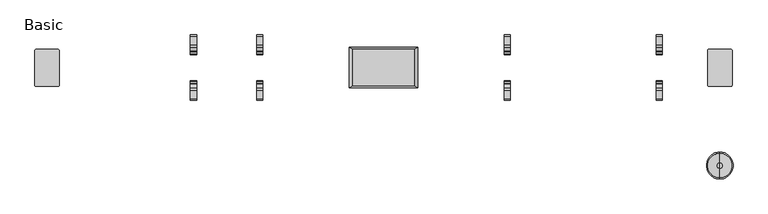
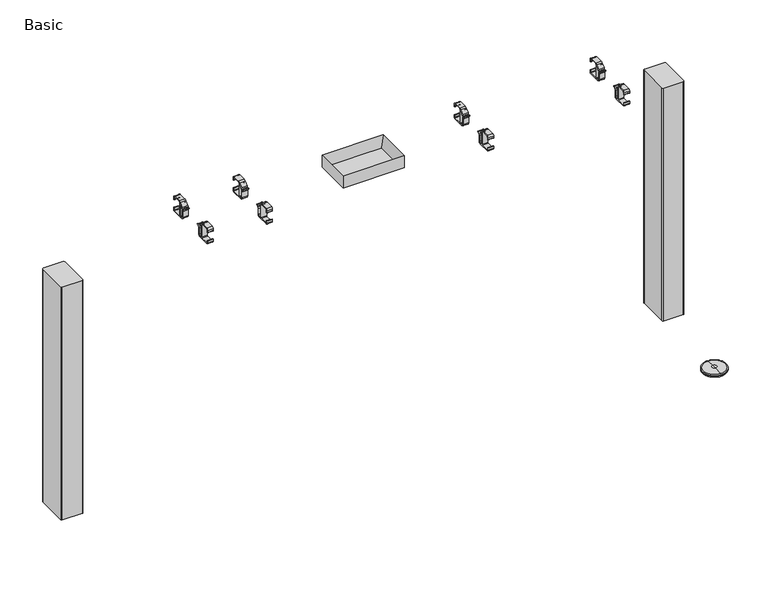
"""IFC4 building model written with IfcOpenShell, lengths in millimetres: furniture geometry, Steelcase Turnstone - Bivi - T Base : Basic."""

from ifc_helpers import new_model, si_unit, point, frame, frame_2d, origin, place, context, project, spatial, polyline, circle_curve, ellipse_curve, trimmed, segment, composite_curve, outline, extrude, faceted_brep, source, transform, mapped, element, save
from ifc_brep_helpers import plane_surface, cylinder_surface, revolved_surface, advanced_brep


def basic_2c4b2238(model_context):
    return source(origin(), model_context, "Body", "SolidModel", [
        extrude(outline(composite_curve([segment(trimmed(circle_curve(frame_2d((676.4941449, -139.8062192)), 2.9999955), [point((679.4941404, -139.8062192))], [point((676.4941476, -142.8062147))], False, "CARTESIAN"), True, "CONTINUOUS"), segment(polyline([(676.4941476, -142.8062147), (622.6123335, -142.8062147)]), True, "CONTINUOUS"), segment(trimmed(circle_curve(frame_2d((622.6123308, -139.8062267)), 2.9999881), [point((622.6123335, -142.8062147))], [point((619.6123427, -139.8062267))], False, "CARTESIAN"), True, "CONTINUOUS"), segment(polyline([(619.6123427, -139.8062267), (619.6123427, -55.8062406)]), True, "CONTINUOUS"), segment(trimmed(circle_curve(frame_2d((622.6123507, -55.8062406)), 3.0000079), [point((619.6123427, -55.8062406))], [point((622.6123441, -52.8062327))], False, "CARTESIAN"), True, "CONTINUOUS"), segment(polyline([(622.6123441, -52.8062327), (676.494164, -52.8062327)]), True, "CONTINUOUS"), segment(trimmed(circle_curve(frame_2d((676.494164, -55.8062091)), 2.9999764), [point((676.494164, -52.8062327))], [point((679.4941404, -55.8062091))], False, "CARTESIAN"), True, "CONTINUOUS"), segment(polyline([(679.4941404, -55.8062091), (679.4941404, -139.8062192)]), True, "CONTINUOUS")], self_intersect=False)), frame((0.0, 0.0, 32.9997018), z_axis=(0.0, 0.0, 1.0), x_axis=(1.0, 0.0, 0.0)), (0.0, 0.0, 1.0), 673.400907),
        extrude(outline(composite_curve([segment(polyline([(-1023.7931554, -140.227344), (-1023.7931508, -55.5044158)]), True, "CONTINUOUS"), segment(trimmed(circle_curve(frame_2d((-1021.0949196, -55.5044158)), 2.6982312), [point((-1023.7931508, -55.5044158))], [point((-1021.0949196, -52.8061846))], False, "CARTESIAN"), True, "CONTINUOUS"), segment(polyline([(-1021.0949196, -52.8061846), (-968.1662966, -52.8061846)]), True, "CONTINUOUS"), segment(trimmed(circle_curve(frame_2d((-968.1662966, -57.1799025)), 4.3737179), [point((-968.1662966, -52.8061846))], [point((-963.7925787, -57.1799025))], False, "CARTESIAN"), True, "CONTINUOUS"), segment(polyline([(-963.7925787, -57.1799025), (-963.7925787, -140.352824)]), True, "CONTINUOUS"), segment(trimmed(circle_curve(frame_2d((-966.3932707, -140.2011003)), 2.605114), [point((-963.7925787, -140.352824))], [point((-966.3932707, -142.8062143))], False, "CARTESIAN"), True, "CONTINUOUS"), segment(polyline([(-966.3932707, -142.8062143), (-1021.2142851, -142.8062143)]), True, "CONTINUOUS"), segment(trimmed(circle_curve(frame_2d((-1021.2142851, -140.227344)), 2.5788703), [point((-1021.2142851, -142.8062143))], [point((-1023.7931554, -140.227344))], False, "CARTESIAN"), True, "CONTINUOUS")], self_intersect=False)), frame((0.0, 0.0, 32.9997018), z_axis=(0.0, 0.0, 1.0), x_axis=(1.0, 0.0, 0.0)), (0.0, 0.0, 1.0), 673.400907),
        extrude(outline(composite_curve([segment(trimmed(circle_curve(frame_2d((-65.7391624, 742.1239361)), 6.2415612), [point((-59.4976013, 742.1239361))], [point((-64.5659326, 748.2542393))], True, "CARTESIAN"), True, "CONTINUOUS"), segment(trimmed(circle_curve(frame_2d((-64.3721846, 749.2666017)), 1.0307357), [point((-64.5659326, 748.2542393))], [point((-64.1869392, 750.2805545))], False, "CARTESIAN"), True, "CONTINUOUS"), segment(trimmed(circle_curve(frame_2d((-65.6771233, 742.1239361)), 8.2916266), [point((-64.1869392, 750.2805545))], [point((-57.3854967, 742.1239361))], False, "CARTESIAN"), True, "CONTINUOUS"), segment(polyline([(-57.3854967, 742.1239361), (-57.3854967, 725.3624107)]), True, "CONTINUOUS"), segment(trimmed(circle_curve(frame_2d((-53.4972048, 725.3624107)), 3.8882919), [point((-57.3854967, 725.3624107))], [point((-53.4414787, 721.4745182))], True, "CARTESIAN"), True, "CONTINUOUS"), segment(polyline([(-53.4414787, 721.4745182), (-48.5753711, 721.4745182)]), True, "CONTINUOUS"), segment(trimmed(circle_curve(frame_2d((-48.5753711, 722.558435)), 1.0839168), [point((-48.5753711, 721.4745182))], [point((-47.4914543, 722.558435))], True, "CARTESIAN"), True, "CONTINUOUS"), segment(polyline([(-47.4914543, 722.558435), (-47.4914543, 756.2135585)]), True, "CONTINUOUS"), segment(trimmed(circle_curve(frame_2d((-49.0315964, 756.2135585)), 1.5401421), [point((-47.4914543, 756.2135585))], [point((-50.0681586, 757.3526706))], True, "CARTESIAN"), True, "CONTINUOUS"), segment(polyline([(-50.0681586, 757.3526706), (-54.4475369, 753.3675508)]), True, "CONTINUOUS"), segment(trimmed(circle_curve(frame_2d((-53.8610141, 752.7230017)), 0.8714657), [point((-54.4475369, 753.3675508))], [point((-54.6447876, 752.342014))], True, "CARTESIAN"), True, "CONTINUOUS"), segment(trimmed(circle_curve(frame_2d((-56.5369304, 751.4222544)), 2.1038446), [point((-54.6447876, 752.342014))], [point((-57.8009025, 753.1040798))], False, "CARTESIAN"), True, "CONTINUOUS"), segment(polyline([(-57.8009025, 753.1040798), (-48.4315057, 761.5182067)]), True, "CONTINUOUS"), segment(trimmed(circle_curve(frame_2d((-43.0316889, 755.5053397)), 8.0816206), [point((-48.4315057, 761.5182067))], [point((-43.0316889, 763.5869603))], False, "CARTESIAN"), True, "CONTINUOUS"), segment(polyline([(-43.0316889, 763.5869603), (-21.684555, 763.5869603)]), True, "CONTINUOUS"), segment(trimmed(circle_curve(frame_2d((-22.1935929, 758.8624493)), 4.7518548), [point((-21.684555, 763.5869603))], [point((-17.4417381, 758.8624493))], False, "CARTESIAN"), True, "CONTINUOUS"), segment(polyline([(-17.4417381, 758.8624493), (-17.4417381, 753.5063472)]), True, "CONTINUOUS"), segment(trimmed(circle_curve(frame_2d((-18.5067894, 753.5063472)), 1.0650513), [point((-17.4417381, 753.5063472))], [point((-19.5718406, 753.5063472))], False, "CARTESIAN"), True, "CONTINUOUS"), segment(polyline([(-19.5718406, 753.5063472), (-19.5718406, 759.3038862)]), True, "CONTINUOUS"), segment(trimmed(circle_curve(frame_2d((-22.6679544, 759.3038862)), 3.0961138), [point((-19.5718406, 759.3038862))], [point((-22.6679544, 762.4))], True, "CARTESIAN"), True, "CONTINUOUS"), segment(polyline([(-22.6679544, 762.4), (-43.0035831, 762.4)]), True, "CONTINUOUS"), segment(trimmed(circle_curve(frame_2d((-43.0035831, 759.897389)), 2.502611), [point((-43.0035831, 762.4))], [point((-45.5061941, 759.897389))], True, "CARTESIAN"), True, "CONTINUOUS"), segment(polyline([(-45.5061941, 759.897389), (-45.5061941, 722.9613964)]), True, "CONTINUOUS"), segment(trimmed(circle_curve(frame_2d((-44.0445082, 722.9613964)), 1.4616859), [point((-45.5061941, 722.9613964))], [point((-44.0445082, 721.4997105))], True, "CARTESIAN"), True, "CONTINUOUS"), segment(polyline([(-44.0445082, 721.4997105), (-21.0231187, 721.4997105)]), True, "CONTINUOUS"), segment(trimmed(circle_curve(frame_2d((-21.0231187, 722.9509885)), 1.451278), [point((-21.0231187, 721.4997105))], [point((-19.5718406, 722.9509885))], True, "CARTESIAN"), True, "CONTINUOUS"), segment(polyline([(-19.5718406, 722.9509885), (-19.5718406, 729.2789837), (-17.4417381, 729.2789837), (-17.4417381, 723.3602118)]), True, "CONTINUOUS"), segment(trimmed(circle_curve(frame_2d((-21.439512, 723.3602118)), 3.997774), [point((-17.4417381, 723.3602118))], [point((-21.439512, 719.3624378))], False, "CARTESIAN"), True, "CONTINUOUS"), segment(polyline([(-21.439512, 719.3624378), (-53.4414787, 719.3624378)]), True, "CONTINUOUS"), segment(trimmed(circle_curve(frame_2d((-53.4414787, 725.4188231)), 6.0563853), [point((-53.4414787, 719.3624378))], [point((-59.4976013, 725.3624107))], False, "CARTESIAN"), True, "CONTINUOUS"), segment(polyline([(-59.4976013, 725.3624107), (-59.4976013, 742.1239361)]), True, "CONTINUOUS")], self_intersect=False)), frame((-644.2435707, 0.0, 0.0), z_axis=(1.0, 0.0, 0.0), x_axis=(0.0, 1.0, 0.0)), (0.0, 0.0, 1.0), 15.24),
        extrude(outline(composite_curve([segment(polyline([(-135.6005693, 742.1239361), (-135.6005693, 725.3624107)]), True, "CONTINUOUS"), segment(trimmed(circle_curve(frame_2d((-141.6566919, 725.4188231)), 6.0563853), [point((-135.6005693, 725.3624107))], [point((-141.6566919, 719.3624378))], False, "CARTESIAN"), True, "CONTINUOUS"), segment(polyline([(-141.6566919, 719.3624378), (-173.6586586, 719.3624378)]), True, "CONTINUOUS"), segment(trimmed(circle_curve(frame_2d((-173.6586586, 723.3602118)), 3.997774), [point((-173.6586586, 719.3624378))], [point((-177.6564325, 723.3602118))], False, "CARTESIAN"), True, "CONTINUOUS"), segment(polyline([(-177.6564325, 723.3602118), (-177.6564325, 729.2789837), (-175.52633, 729.2789837), (-175.52633, 722.9509885)]), True, "CONTINUOUS"), segment(trimmed(circle_curve(frame_2d((-174.0750519, 722.9509885)), 1.451278), [point((-175.52633, 722.9509885))], [point((-174.0750519, 721.4997105))], True, "CARTESIAN"), True, "CONTINUOUS"), segment(polyline([(-174.0750519, 721.4997105), (-151.0536624, 721.4997105)]), True, "CONTINUOUS"), segment(trimmed(circle_curve(frame_2d((-151.0536624, 722.9613964)), 1.4616859), [point((-151.0536624, 721.4997105))], [point((-149.5919765, 722.9613964))], True, "CARTESIAN"), True, "CONTINUOUS"), segment(polyline([(-149.5919765, 722.9613964), (-149.5919765, 759.897389)]), True, "CONTINUOUS"), segment(trimmed(circle_curve(frame_2d((-152.0945875, 759.897389)), 2.502611), [point((-149.5919765, 759.897389))], [point((-152.0945875, 762.4))], True, "CARTESIAN"), True, "CONTINUOUS"), segment(polyline([(-152.0945875, 762.4), (-172.4302162, 762.4)]), True, "CONTINUOUS"), segment(trimmed(circle_curve(frame_2d((-172.4302162, 759.3038862)), 3.0961138), [point((-172.4302162, 762.4))], [point((-175.52633, 759.3038862))], True, "CARTESIAN"), True, "CONTINUOUS"), segment(polyline([(-175.52633, 759.3038862), (-175.52633, 753.5063472)]), True, "CONTINUOUS"), segment(trimmed(circle_curve(frame_2d((-176.5913812, 753.5063472)), 1.0650513), [point((-175.52633, 753.5063472))], [point((-177.6564325, 753.5063472))], False, "CARTESIAN"), True, "CONTINUOUS"), segment(polyline([(-177.6564325, 753.5063472), (-177.6564325, 758.8624493)]), True, "CONTINUOUS"), segment(trimmed(circle_curve(frame_2d((-172.9045777, 758.8624493)), 4.7518548), [point((-177.6564325, 758.8624493))], [point((-173.4136156, 763.5869603))], False, "CARTESIAN"), True, "CONTINUOUS"), segment(polyline([(-173.4136156, 763.5869603), (-152.0664817, 763.5869603)]), True, "CONTINUOUS"), segment(trimmed(circle_curve(frame_2d((-152.0664817, 755.5053397)), 8.0816206), [point((-152.0664817, 763.5869603))], [point((-146.6666649, 761.5182067))], False, "CARTESIAN"), True, "CONTINUOUS"), segment(polyline([(-146.6666649, 761.5182067), (-137.2972681, 753.1040798)]), True, "CONTINUOUS"), segment(trimmed(circle_curve(frame_2d((-138.5612402, 751.4222544)), 2.1038446), [point((-137.2972681, 753.1040798))], [point((-140.453383, 752.342014))], False, "CARTESIAN"), True, "CONTINUOUS"), segment(trimmed(circle_curve(frame_2d((-141.2371565, 752.7230017)), 0.8714657), [point((-140.453383, 752.342014))], [point((-140.6506337, 753.3675508))], True, "CARTESIAN"), True, "CONTINUOUS"), segment(polyline([(-140.6506337, 753.3675508), (-145.030012, 757.3526706)]), True, "CONTINUOUS"), segment(trimmed(circle_curve(frame_2d((-146.0665742, 756.2135585)), 1.5401421), [point((-145.030012, 757.3526706))], [point((-147.6067163, 756.2135585))], True, "CARTESIAN"), True, "CONTINUOUS"), segment(polyline([(-147.6067163, 756.2135585), (-147.6067163, 722.558435)]), True, "CONTINUOUS"), segment(trimmed(circle_curve(frame_2d((-146.5227995, 722.558435)), 1.0839168), [point((-147.6067163, 722.558435))], [point((-146.5227995, 721.4745182))], True, "CARTESIAN"), True, "CONTINUOUS"), segment(polyline([(-146.5227995, 721.4745182), (-141.6566919, 721.4745182)]), True, "CONTINUOUS"), segment(trimmed(circle_curve(frame_2d((-141.6009658, 725.3624107)), 3.8882919), [point((-141.6566919, 721.4745182))], [point((-137.7126739, 725.3624107))], True, "CARTESIAN"), True, "CONTINUOUS"), segment(polyline([(-137.7126739, 725.3624107), (-137.7126739, 742.1239361)]), True, "CONTINUOUS"), segment(trimmed(circle_curve(frame_2d((-129.4210473, 742.1239361)), 8.2916266), [point((-137.7126739, 742.1239361))], [point((-130.9112314, 750.2805545))], False, "CARTESIAN"), True, "CONTINUOUS"), segment(trimmed(circle_curve(frame_2d((-130.725986, 749.2666017)), 1.0307357), [point((-130.9112314, 750.2805545))], [point((-130.532238, 748.2542393))], False, "CARTESIAN"), True, "CONTINUOUS"), segment(trimmed(circle_curve(frame_2d((-129.3590082, 742.1239361)), 6.2415612), [point((-130.532238, 748.2542393))], [point((-135.6005693, 742.1239361))], True, "CARTESIAN"), True, "CONTINUOUS")], self_intersect=False)), frame((-644.2435707, 0.0, 0.0), z_axis=(1.0, 0.0, 0.0), x_axis=(0.0, 1.0, 0.0)), (0.0, 0.0, 1.0), 15.24),
        extrude(outline(composite_curve([segment(trimmed(circle_curve(frame_2d((-65.7391624, 742.1239361)), 6.2415612), [point((-59.4976013, 742.1239361))], [point((-64.5659326, 748.2542393))], True, "CARTESIAN"), True, "CONTINUOUS"), segment(trimmed(circle_curve(frame_2d((-64.3721846, 749.2666017)), 1.0307357), [point((-64.5659326, 748.2542393))], [point((-64.1869392, 750.2805545))], False, "CARTESIAN"), True, "CONTINUOUS"), segment(trimmed(circle_curve(frame_2d((-65.6771233, 742.1239361)), 8.2916266), [point((-64.1869392, 750.2805545))], [point((-57.3854967, 742.1239361))], False, "CARTESIAN"), True, "CONTINUOUS"), segment(polyline([(-57.3854967, 742.1239361), (-57.3854967, 725.3624107)]), True, "CONTINUOUS"), segment(trimmed(circle_curve(frame_2d((-53.4972048, 725.3624107)), 3.8882919), [point((-57.3854967, 725.3624107))], [point((-53.4414787, 721.4745182))], True, "CARTESIAN"), True, "CONTINUOUS"), segment(polyline([(-53.4414787, 721.4745182), (-48.5753711, 721.4745182)]), True, "CONTINUOUS"), segment(trimmed(circle_curve(frame_2d((-48.5753711, 722.558435)), 1.0839168), [point((-48.5753711, 721.4745182))], [point((-47.4914543, 722.558435))], True, "CARTESIAN"), True, "CONTINUOUS"), segment(polyline([(-47.4914543, 722.558435), (-47.4914543, 756.2135585)]), True, "CONTINUOUS"), segment(trimmed(circle_curve(frame_2d((-49.0315964, 756.2135585)), 1.5401421), [point((-47.4914543, 756.2135585))], [point((-50.0681586, 757.3526706))], True, "CARTESIAN"), True, "CONTINUOUS"), segment(polyline([(-50.0681586, 757.3526706), (-54.4475369, 753.3675508)]), True, "CONTINUOUS"), segment(trimmed(circle_curve(frame_2d((-53.8610141, 752.7230017)), 0.8714657), [point((-54.4475369, 753.3675508))], [point((-54.6447876, 752.342014))], True, "CARTESIAN"), True, "CONTINUOUS"), segment(trimmed(circle_curve(frame_2d((-56.5369304, 751.4222544)), 2.1038446), [point((-54.6447876, 752.342014))], [point((-57.8009025, 753.1040798))], False, "CARTESIAN"), True, "CONTINUOUS"), segment(polyline([(-57.8009025, 753.1040798), (-48.4315057, 761.5182067)]), True, "CONTINUOUS"), segment(trimmed(circle_curve(frame_2d((-43.0316889, 755.5053397)), 8.0816206), [point((-48.4315057, 761.5182067))], [point((-43.0316889, 763.5869603))], False, "CARTESIAN"), True, "CONTINUOUS"), segment(polyline([(-43.0316889, 763.5869603), (-21.684555, 763.5869603)]), True, "CONTINUOUS"), segment(trimmed(circle_curve(frame_2d((-22.1935929, 758.8624493)), 4.7518548), [point((-21.684555, 763.5869603))], [point((-17.4417381, 758.8624493))], False, "CARTESIAN"), True, "CONTINUOUS"), segment(polyline([(-17.4417381, 758.8624493), (-17.4417381, 753.5063472)]), True, "CONTINUOUS"), segment(trimmed(circle_curve(frame_2d((-18.5067894, 753.5063472)), 1.0650513), [point((-17.4417381, 753.5063472))], [point((-19.5718406, 753.5063472))], False, "CARTESIAN"), True, "CONTINUOUS"), segment(polyline([(-19.5718406, 753.5063472), (-19.5718406, 759.3038862)]), True, "CONTINUOUS"), segment(trimmed(circle_curve(frame_2d((-22.6679544, 759.3038862)), 3.0961138), [point((-19.5718406, 759.3038862))], [point((-22.6679544, 762.4))], True, "CARTESIAN"), True, "CONTINUOUS"), segment(polyline([(-22.6679544, 762.4), (-43.0035831, 762.4)]), True, "CONTINUOUS"), segment(trimmed(circle_curve(frame_2d((-43.0035831, 759.897389)), 2.502611), [point((-43.0035831, 762.4))], [point((-45.5061941, 759.897389))], True, "CARTESIAN"), True, "CONTINUOUS"), segment(polyline([(-45.5061941, 759.897389), (-45.5061941, 722.9613964)]), True, "CONTINUOUS"), segment(trimmed(circle_curve(frame_2d((-44.0445082, 722.9613964)), 1.4616859), [point((-45.5061941, 722.9613964))], [point((-44.0445082, 721.4997105))], True, "CARTESIAN"), True, "CONTINUOUS"), segment(polyline([(-44.0445082, 721.4997105), (-21.0231187, 721.4997105)]), True, "CONTINUOUS"), segment(trimmed(circle_curve(frame_2d((-21.0231187, 722.9509885)), 1.451278), [point((-21.0231187, 721.4997105))], [point((-19.5718406, 722.9509885))], True, "CARTESIAN"), True, "CONTINUOUS"), segment(polyline([(-19.5718406, 722.9509885), (-19.5718406, 729.2789837), (-17.4417381, 729.2789837), (-17.4417381, 723.3602118)]), True, "CONTINUOUS"), segment(trimmed(circle_curve(frame_2d((-21.439512, 723.3602118)), 3.997774), [point((-17.4417381, 723.3602118))], [point((-21.439512, 719.3624378))], False, "CARTESIAN"), True, "CONTINUOUS"), segment(polyline([(-21.439512, 719.3624378), (-53.4414787, 719.3624378)]), True, "CONTINUOUS"), segment(trimmed(circle_curve(frame_2d((-53.4414787, 725.4188231)), 6.0563853), [point((-53.4414787, 719.3624378))], [point((-59.4976013, 725.3624107))], False, "CARTESIAN"), True, "CONTINUOUS"), segment(polyline([(-59.4976013, 725.3624107), (-59.4976013, 742.1239361)]), True, "CONTINUOUS")], self_intersect=False)), frame((-481.9950023, 0.0, 0.0), z_axis=(1.0, 0.0, 0.0), x_axis=(0.0, 1.0, 0.0)), (0.0, 0.0, 1.0), 15.24),
        extrude(outline(composite_curve([segment(polyline([(-135.6005693, 742.1239361), (-135.6005693, 725.3624107)]), True, "CONTINUOUS"), segment(trimmed(circle_curve(frame_2d((-141.6566919, 725.4188231)), 6.0563853), [point((-135.6005693, 725.3624107))], [point((-141.6566919, 719.3624378))], False, "CARTESIAN"), True, "CONTINUOUS"), segment(polyline([(-141.6566919, 719.3624378), (-173.6586586, 719.3624378)]), True, "CONTINUOUS"), segment(trimmed(circle_curve(frame_2d((-173.6586586, 723.3602118)), 3.997774), [point((-173.6586586, 719.3624378))], [point((-177.6564325, 723.3602118))], False, "CARTESIAN"), True, "CONTINUOUS"), segment(polyline([(-177.6564325, 723.3602118), (-177.6564325, 729.2789837), (-175.52633, 729.2789837), (-175.52633, 722.9509885)]), True, "CONTINUOUS"), segment(trimmed(circle_curve(frame_2d((-174.0750519, 722.9509885)), 1.451278), [point((-175.52633, 722.9509885))], [point((-174.0750519, 721.4997105))], True, "CARTESIAN"), True, "CONTINUOUS"), segment(polyline([(-174.0750519, 721.4997105), (-151.0536624, 721.4997105)]), True, "CONTINUOUS"), segment(trimmed(circle_curve(frame_2d((-151.0536624, 722.9613964)), 1.4616859), [point((-151.0536624, 721.4997105))], [point((-149.5919765, 722.9613964))], True, "CARTESIAN"), True, "CONTINUOUS"), segment(polyline([(-149.5919765, 722.9613964), (-149.5919765, 759.897389)]), True, "CONTINUOUS"), segment(trimmed(circle_curve(frame_2d((-152.0945875, 759.897389)), 2.502611), [point((-149.5919765, 759.897389))], [point((-152.0945875, 762.4))], True, "CARTESIAN"), True, "CONTINUOUS"), segment(polyline([(-152.0945875, 762.4), (-172.4302162, 762.4)]), True, "CONTINUOUS"), segment(trimmed(circle_curve(frame_2d((-172.4302162, 759.3038862)), 3.0961138), [point((-172.4302162, 762.4))], [point((-175.52633, 759.3038862))], True, "CARTESIAN"), True, "CONTINUOUS"), segment(polyline([(-175.52633, 759.3038862), (-175.52633, 753.5063472)]), True, "CONTINUOUS"), segment(trimmed(circle_curve(frame_2d((-176.5913812, 753.5063472)), 1.0650513), [point((-175.52633, 753.5063472))], [point((-177.6564325, 753.5063472))], False, "CARTESIAN"), True, "CONTINUOUS"), segment(polyline([(-177.6564325, 753.5063472), (-177.6564325, 758.8624493)]), True, "CONTINUOUS"), segment(trimmed(circle_curve(frame_2d((-172.9045777, 758.8624493)), 4.7518548), [point((-177.6564325, 758.8624493))], [point((-173.4136156, 763.5869603))], False, "CARTESIAN"), True, "CONTINUOUS"), segment(polyline([(-173.4136156, 763.5869603), (-152.0664817, 763.5869603)]), True, "CONTINUOUS"), segment(trimmed(circle_curve(frame_2d((-152.0664817, 755.5053397)), 8.0816206), [point((-152.0664817, 763.5869603))], [point((-146.6666649, 761.5182067))], False, "CARTESIAN"), True, "CONTINUOUS"), segment(polyline([(-146.6666649, 761.5182067), (-137.2972681, 753.1040798)]), True, "CONTINUOUS"), segment(trimmed(circle_curve(frame_2d((-138.5612402, 751.4222544)), 2.1038446), [point((-137.2972681, 753.1040798))], [point((-140.453383, 752.342014))], False, "CARTESIAN"), True, "CONTINUOUS"), segment(trimmed(circle_curve(frame_2d((-141.2371565, 752.7230017)), 0.8714657), [point((-140.453383, 752.342014))], [point((-140.6506337, 753.3675508))], True, "CARTESIAN"), True, "CONTINUOUS"), segment(polyline([(-140.6506337, 753.3675508), (-145.030012, 757.3526706)]), True, "CONTINUOUS"), segment(trimmed(circle_curve(frame_2d((-146.0665742, 756.2135585)), 1.5401421), [point((-145.030012, 757.3526706))], [point((-147.6067163, 756.2135585))], True, "CARTESIAN"), True, "CONTINUOUS"), segment(polyline([(-147.6067163, 756.2135585), (-147.6067163, 722.558435)]), True, "CONTINUOUS"), segment(trimmed(circle_curve(frame_2d((-146.5227995, 722.558435)), 1.0839168), [point((-147.6067163, 722.558435))], [point((-146.5227995, 721.4745182))], True, "CARTESIAN"), True, "CONTINUOUS"), segment(polyline([(-146.5227995, 721.4745182), (-141.6566919, 721.4745182)]), True, "CONTINUOUS"), segment(trimmed(circle_curve(frame_2d((-141.6009658, 725.3624107)), 3.8882919), [point((-141.6566919, 721.4745182))], [point((-137.7126739, 725.3624107))], True, "CARTESIAN"), True, "CONTINUOUS"), segment(polyline([(-137.7126739, 725.3624107), (-137.7126739, 742.1239361)]), True, "CONTINUOUS"), segment(trimmed(circle_curve(frame_2d((-129.4210473, 742.1239361)), 8.2916266), [point((-137.7126739, 742.1239361))], [point((-130.9112314, 750.2805545))], False, "CARTESIAN"), True, "CONTINUOUS"), segment(trimmed(circle_curve(frame_2d((-130.725986, 749.2666017)), 1.0307357), [point((-130.9112314, 750.2805545))], [point((-130.532238, 748.2542393))], False, "CARTESIAN"), True, "CONTINUOUS"), segment(trimmed(circle_curve(frame_2d((-129.3590082, 742.1239361)), 6.2415612), [point((-130.532238, 748.2542393))], [point((-135.6005693, 742.1239361))], True, "CARTESIAN"), True, "CONTINUOUS")], self_intersect=False)), frame((-481.9950023, 0.0, 0.0), z_axis=(1.0, 0.0, 0.0), x_axis=(0.0, 1.0, 0.0)), (0.0, 0.0, 1.0), 15.24),
        extrude(outline(composite_curve([segment(trimmed(circle_curve(frame_2d((-65.7391624, 742.1239361)), 6.2415612), [point((-59.4976013, 742.1239361))], [point((-64.5659326, 748.2542393))], True, "CARTESIAN"), True, "CONTINUOUS"), segment(trimmed(circle_curve(frame_2d((-64.3721846, 749.2666017)), 1.0307357), [point((-64.5659326, 748.2542393))], [point((-64.1869392, 750.2805545))], False, "CARTESIAN"), True, "CONTINUOUS"), segment(trimmed(circle_curve(frame_2d((-65.6771233, 742.1239361)), 8.2916266), [point((-64.1869392, 750.2805545))], [point((-57.3854967, 742.1239361))], False, "CARTESIAN"), True, "CONTINUOUS"), segment(polyline([(-57.3854967, 742.1239361), (-57.3854967, 725.3624107)]), True, "CONTINUOUS"), segment(trimmed(circle_curve(frame_2d((-53.4972048, 725.3624107)), 3.8882919), [point((-57.3854967, 725.3624107))], [point((-53.4414787, 721.4745182))], True, "CARTESIAN"), True, "CONTINUOUS"), segment(polyline([(-53.4414787, 721.4745182), (-48.5753711, 721.4745182)]), True, "CONTINUOUS"), segment(trimmed(circle_curve(frame_2d((-48.5753711, 722.558435)), 1.0839168), [point((-48.5753711, 721.4745182))], [point((-47.4914543, 722.558435))], True, "CARTESIAN"), True, "CONTINUOUS"), segment(polyline([(-47.4914543, 722.558435), (-47.4914543, 756.2135585)]), True, "CONTINUOUS"), segment(trimmed(circle_curve(frame_2d((-49.0315964, 756.2135585)), 1.5401421), [point((-47.4914543, 756.2135585))], [point((-50.0681586, 757.3526706))], True, "CARTESIAN"), True, "CONTINUOUS"), segment(polyline([(-50.0681586, 757.3526706), (-54.4475369, 753.3675508)]), True, "CONTINUOUS"), segment(trimmed(circle_curve(frame_2d((-53.8610141, 752.7230017)), 0.8714657), [point((-54.4475369, 753.3675508))], [point((-54.6447876, 752.342014))], True, "CARTESIAN"), True, "CONTINUOUS"), segment(trimmed(circle_curve(frame_2d((-56.5369304, 751.4222544)), 2.1038446), [point((-54.6447876, 752.342014))], [point((-57.8009025, 753.1040798))], False, "CARTESIAN"), True, "CONTINUOUS"), segment(polyline([(-57.8009025, 753.1040798), (-48.4315057, 761.5182067)]), True, "CONTINUOUS"), segment(trimmed(circle_curve(frame_2d((-43.0316889, 755.5053397)), 8.0816206), [point((-48.4315057, 761.5182067))], [point((-43.0316889, 763.5869603))], False, "CARTESIAN"), True, "CONTINUOUS"), segment(polyline([(-43.0316889, 763.5869603), (-21.684555, 763.5869603)]), True, "CONTINUOUS"), segment(trimmed(circle_curve(frame_2d((-22.1935929, 758.8624493)), 4.7518548), [point((-21.684555, 763.5869603))], [point((-17.4417381, 758.8624493))], False, "CARTESIAN"), True, "CONTINUOUS"), segment(polyline([(-17.4417381, 758.8624493), (-17.4417381, 753.5063472)]), True, "CONTINUOUS"), segment(trimmed(circle_curve(frame_2d((-18.5067894, 753.5063472)), 1.0650513), [point((-17.4417381, 753.5063472))], [point((-19.5718406, 753.5063472))], False, "CARTESIAN"), True, "CONTINUOUS"), segment(polyline([(-19.5718406, 753.5063472), (-19.5718406, 759.3038862)]), True, "CONTINUOUS"), segment(trimmed(circle_curve(frame_2d((-22.6679544, 759.3038862)), 3.0961138), [point((-19.5718406, 759.3038862))], [point((-22.6679544, 762.4))], True, "CARTESIAN"), True, "CONTINUOUS"), segment(polyline([(-22.6679544, 762.4), (-43.0035831, 762.4)]), True, "CONTINUOUS"), segment(trimmed(circle_curve(frame_2d((-43.0035831, 759.897389)), 2.502611), [point((-43.0035831, 762.4))], [point((-45.5061941, 759.897389))], True, "CARTESIAN"), True, "CONTINUOUS"), segment(polyline([(-45.5061941, 759.897389), (-45.5061941, 722.9613964)]), True, "CONTINUOUS"), segment(trimmed(circle_curve(frame_2d((-44.0445082, 722.9613964)), 1.4616859), [point((-45.5061941, 722.9613964))], [point((-44.0445082, 721.4997105))], True, "CARTESIAN"), True, "CONTINUOUS"), segment(polyline([(-44.0445082, 721.4997105), (-21.0231187, 721.4997105)]), True, "CONTINUOUS"), segment(trimmed(circle_curve(frame_2d((-21.0231187, 722.9509885)), 1.451278), [point((-21.0231187, 721.4997105))], [point((-19.5718406, 722.9509885))], True, "CARTESIAN"), True, "CONTINUOUS"), segment(polyline([(-19.5718406, 722.9509885), (-19.5718406, 729.2789837), (-17.4417381, 729.2789837), (-17.4417381, 723.3602118)]), True, "CONTINUOUS"), segment(trimmed(circle_curve(frame_2d((-21.439512, 723.3602118)), 3.997774), [point((-17.4417381, 723.3602118))], [point((-21.439512, 719.3624378))], False, "CARTESIAN"), True, "CONTINUOUS"), segment(polyline([(-21.439512, 719.3624378), (-53.4414787, 719.3624378)]), True, "CONTINUOUS"), segment(trimmed(circle_curve(frame_2d((-53.4414787, 725.4188231)), 6.0563853), [point((-53.4414787, 719.3624378))], [point((-59.4976013, 725.3624107))], False, "CARTESIAN"), True, "CONTINUOUS"), segment(polyline([(-59.4976013, 725.3624107), (-59.4976013, 742.1239361)]), True, "CONTINUOUS")], self_intersect=False)), frame((494.1131648, 0.0, 0.0), z_axis=(1.0, 0.0, 0.0), x_axis=(0.0, 1.0, 0.0)), (0.0, 0.0, 1.0), 15.24),
        extrude(outline(composite_curve([segment(polyline([(-135.6005693, 742.1239361), (-135.6005693, 725.3624107)]), True, "CONTINUOUS"), segment(trimmed(circle_curve(frame_2d((-141.6566919, 725.4188231)), 6.0563853), [point((-135.6005693, 725.3624107))], [point((-141.6566919, 719.3624378))], False, "CARTESIAN"), True, "CONTINUOUS"), segment(polyline([(-141.6566919, 719.3624378), (-173.6586586, 719.3624378)]), True, "CONTINUOUS"), segment(trimmed(circle_curve(frame_2d((-173.6586586, 723.3602118)), 3.997774), [point((-173.6586586, 719.3624378))], [point((-177.6564325, 723.3602118))], False, "CARTESIAN"), True, "CONTINUOUS"), segment(polyline([(-177.6564325, 723.3602118), (-177.6564325, 729.2789837), (-175.52633, 729.2789837), (-175.52633, 722.9509885)]), True, "CONTINUOUS"), segment(trimmed(circle_curve(frame_2d((-174.0750519, 722.9509885)), 1.451278), [point((-175.52633, 722.9509885))], [point((-174.0750519, 721.4997105))], True, "CARTESIAN"), True, "CONTINUOUS"), segment(polyline([(-174.0750519, 721.4997105), (-151.0536624, 721.4997105)]), True, "CONTINUOUS"), segment(trimmed(circle_curve(frame_2d((-151.0536624, 722.9613964)), 1.4616859), [point((-151.0536624, 721.4997105))], [point((-149.5919765, 722.9613964))], True, "CARTESIAN"), True, "CONTINUOUS"), segment(polyline([(-149.5919765, 722.9613964), (-149.5919765, 759.897389)]), True, "CONTINUOUS"), segment(trimmed(circle_curve(frame_2d((-152.0945875, 759.897389)), 2.502611), [point((-149.5919765, 759.897389))], [point((-152.0945875, 762.4))], True, "CARTESIAN"), True, "CONTINUOUS"), segment(polyline([(-152.0945875, 762.4), (-172.4302162, 762.4)]), True, "CONTINUOUS"), segment(trimmed(circle_curve(frame_2d((-172.4302162, 759.3038862)), 3.0961138), [point((-172.4302162, 762.4))], [point((-175.52633, 759.3038862))], True, "CARTESIAN"), True, "CONTINUOUS"), segment(polyline([(-175.52633, 759.3038862), (-175.52633, 753.5063472)]), True, "CONTINUOUS"), segment(trimmed(circle_curve(frame_2d((-176.5913812, 753.5063472)), 1.0650513), [point((-175.52633, 753.5063472))], [point((-177.6564325, 753.5063472))], False, "CARTESIAN"), True, "CONTINUOUS"), segment(polyline([(-177.6564325, 753.5063472), (-177.6564325, 758.8624493)]), True, "CONTINUOUS"), segment(trimmed(circle_curve(frame_2d((-172.9045777, 758.8624493)), 4.7518548), [point((-177.6564325, 758.8624493))], [point((-173.4136156, 763.5869603))], False, "CARTESIAN"), True, "CONTINUOUS"), segment(polyline([(-173.4136156, 763.5869603), (-152.0664817, 763.5869603)]), True, "CONTINUOUS"), segment(trimmed(circle_curve(frame_2d((-152.0664817, 755.5053397)), 8.0816206), [point((-152.0664817, 763.5869603))], [point((-146.6666649, 761.5182067))], False, "CARTESIAN"), True, "CONTINUOUS"), segment(polyline([(-146.6666649, 761.5182067), (-137.2972681, 753.1040798)]), True, "CONTINUOUS"), segment(trimmed(circle_curve(frame_2d((-138.5612402, 751.4222544)), 2.1038446), [point((-137.2972681, 753.1040798))], [point((-140.453383, 752.342014))], False, "CARTESIAN"), True, "CONTINUOUS"), segment(trimmed(circle_curve(frame_2d((-141.2371565, 752.7230017)), 0.8714657), [point((-140.453383, 752.342014))], [point((-140.6506337, 753.3675508))], True, "CARTESIAN"), True, "CONTINUOUS"), segment(polyline([(-140.6506337, 753.3675508), (-145.030012, 757.3526706)]), True, "CONTINUOUS"), segment(trimmed(circle_curve(frame_2d((-146.0665742, 756.2135585)), 1.5401421), [point((-145.030012, 757.3526706))], [point((-147.6067163, 756.2135585))], True, "CARTESIAN"), True, "CONTINUOUS"), segment(polyline([(-147.6067163, 756.2135585), (-147.6067163, 722.558435)]), True, "CONTINUOUS"), segment(trimmed(circle_curve(frame_2d((-146.5227995, 722.558435)), 1.0839168), [point((-147.6067163, 722.558435))], [point((-146.5227995, 721.4745182))], True, "CARTESIAN"), True, "CONTINUOUS"), segment(polyline([(-146.5227995, 721.4745182), (-141.6566919, 721.4745182)]), True, "CONTINUOUS"), segment(trimmed(circle_curve(frame_2d((-141.6009658, 725.3624107)), 3.8882919), [point((-141.6566919, 721.4745182))], [point((-137.7126739, 725.3624107))], True, "CARTESIAN"), True, "CONTINUOUS"), segment(polyline([(-137.7126739, 725.3624107), (-137.7126739, 742.1239361)]), True, "CONTINUOUS"), segment(trimmed(circle_curve(frame_2d((-129.4210473, 742.1239361)), 8.2916266), [point((-137.7126739, 742.1239361))], [point((-130.9112314, 750.2805545))], False, "CARTESIAN"), True, "CONTINUOUS"), segment(trimmed(circle_curve(frame_2d((-130.725986, 749.2666017)), 1.0307357), [point((-130.9112314, 750.2805545))], [point((-130.532238, 748.2542393))], False, "CARTESIAN"), True, "CONTINUOUS"), segment(trimmed(circle_curve(frame_2d((-129.3590082, 742.1239361)), 6.2415612), [point((-130.532238, 748.2542393))], [point((-135.6005693, 742.1239361))], True, "CARTESIAN"), True, "CONTINUOUS")], self_intersect=False)), frame((494.1131648, 0.0, 0.0), z_axis=(1.0, 0.0, 0.0), x_axis=(0.0, 1.0, 0.0)), (0.0, 0.0, 1.0), 15.24),
        extrude(outline(composite_curve([segment(trimmed(circle_curve(frame_2d((-65.7391624, 742.1239361)), 6.2415612), [point((-59.4976013, 742.1239361))], [point((-64.5659326, 748.2542393))], True, "CARTESIAN"), True, "CONTINUOUS"), segment(trimmed(circle_curve(frame_2d((-64.3721846, 749.2666017)), 1.0307357), [point((-64.5659326, 748.2542393))], [point((-64.1869392, 750.2805545))], False, "CARTESIAN"), True, "CONTINUOUS"), segment(trimmed(circle_curve(frame_2d((-65.6771233, 742.1239361)), 8.2916266), [point((-64.1869392, 750.2805545))], [point((-57.3854967, 742.1239361))], False, "CARTESIAN"), True, "CONTINUOUS"), segment(polyline([(-57.3854967, 742.1239361), (-57.3854967, 725.3624107)]), True, "CONTINUOUS"), segment(trimmed(circle_curve(frame_2d((-53.4972048, 725.3624107)), 3.8882919), [point((-57.3854967, 725.3624107))], [point((-53.4414787, 721.4745182))], True, "CARTESIAN"), True, "CONTINUOUS"), segment(polyline([(-53.4414787, 721.4745182), (-48.5753711, 721.4745182)]), True, "CONTINUOUS"), segment(trimmed(circle_curve(frame_2d((-48.5753711, 722.558435)), 1.0839168), [point((-48.5753711, 721.4745182))], [point((-47.4914543, 722.558435))], True, "CARTESIAN"), True, "CONTINUOUS"), segment(polyline([(-47.4914543, 722.558435), (-47.4914543, 756.2135585)]), True, "CONTINUOUS"), segment(trimmed(circle_curve(frame_2d((-49.0315964, 756.2135585)), 1.5401421), [point((-47.4914543, 756.2135585))], [point((-50.0681586, 757.3526706))], True, "CARTESIAN"), True, "CONTINUOUS"), segment(polyline([(-50.0681586, 757.3526706), (-54.4475369, 753.3675508)]), True, "CONTINUOUS"), segment(trimmed(circle_curve(frame_2d((-53.8610141, 752.7230017)), 0.8714657), [point((-54.4475369, 753.3675508))], [point((-54.6447876, 752.342014))], True, "CARTESIAN"), True, "CONTINUOUS"), segment(trimmed(circle_curve(frame_2d((-56.5369304, 751.4222544)), 2.1038446), [point((-54.6447876, 752.342014))], [point((-57.8009025, 753.1040798))], False, "CARTESIAN"), True, "CONTINUOUS"), segment(polyline([(-57.8009025, 753.1040798), (-48.4315057, 761.5182067)]), True, "CONTINUOUS"), segment(trimmed(circle_curve(frame_2d((-43.0316889, 755.5053397)), 8.0816206), [point((-48.4315057, 761.5182067))], [point((-43.0316889, 763.5869603))], False, "CARTESIAN"), True, "CONTINUOUS"), segment(polyline([(-43.0316889, 763.5869603), (-21.684555, 763.5869603)]), True, "CONTINUOUS"), segment(trimmed(circle_curve(frame_2d((-22.1935929, 758.8624493)), 4.7518548), [point((-21.684555, 763.5869603))], [point((-17.4417381, 758.8624493))], False, "CARTESIAN"), True, "CONTINUOUS"), segment(polyline([(-17.4417381, 758.8624493), (-17.4417381, 753.5063472)]), True, "CONTINUOUS"), segment(trimmed(circle_curve(frame_2d((-18.5067894, 753.5063472)), 1.0650513), [point((-17.4417381, 753.5063472))], [point((-19.5718406, 753.5063472))], False, "CARTESIAN"), True, "CONTINUOUS"), segment(polyline([(-19.5718406, 753.5063472), (-19.5718406, 759.3038862)]), True, "CONTINUOUS"), segment(trimmed(circle_curve(frame_2d((-22.6679544, 759.3038862)), 3.0961138), [point((-19.5718406, 759.3038862))], [point((-22.6679544, 762.4))], True, "CARTESIAN"), True, "CONTINUOUS"), segment(polyline([(-22.6679544, 762.4), (-43.0035831, 762.4)]), True, "CONTINUOUS"), segment(trimmed(circle_curve(frame_2d((-43.0035831, 759.897389)), 2.502611), [point((-43.0035831, 762.4))], [point((-45.5061941, 759.897389))], True, "CARTESIAN"), True, "CONTINUOUS"), segment(polyline([(-45.5061941, 759.897389), (-45.5061941, 722.9613964)]), True, "CONTINUOUS"), segment(trimmed(circle_curve(frame_2d((-44.0445082, 722.9613964)), 1.4616859), [point((-45.5061941, 722.9613964))], [point((-44.0445082, 721.4997105))], True, "CARTESIAN"), True, "CONTINUOUS"), segment(polyline([(-44.0445082, 721.4997105), (-21.0231187, 721.4997105)]), True, "CONTINUOUS"), segment(trimmed(circle_curve(frame_2d((-21.0231187, 722.9509885)), 1.451278), [point((-21.0231187, 721.4997105))], [point((-19.5718406, 722.9509885))], True, "CARTESIAN"), True, "CONTINUOUS"), segment(polyline([(-19.5718406, 722.9509885), (-19.5718406, 729.2789837), (-17.4417381, 729.2789837), (-17.4417381, 723.3602118)]), True, "CONTINUOUS"), segment(trimmed(circle_curve(frame_2d((-21.439512, 723.3602118)), 3.997774), [point((-17.4417381, 723.3602118))], [point((-21.439512, 719.3624378))], False, "CARTESIAN"), True, "CONTINUOUS"), segment(polyline([(-21.439512, 719.3624378), (-53.4414787, 719.3624378)]), True, "CONTINUOUS"), segment(trimmed(circle_curve(frame_2d((-53.4414787, 725.4188231)), 6.0563853), [point((-53.4414787, 719.3624378))], [point((-59.4976013, 725.3624107))], False, "CARTESIAN"), True, "CONTINUOUS"), segment(polyline([(-59.4976013, 725.3624107), (-59.4976013, 742.1239361)]), True, "CONTINUOUS")], self_intersect=False)), frame((122.3145965, 0.0, 0.0), z_axis=(1.0, 0.0, 0.0), x_axis=(0.0, 1.0, 0.0)), (0.0, 0.0, 1.0), 15.24),
        extrude(outline(composite_curve([segment(polyline([(-135.6005693, 742.1239361), (-135.6005693, 725.3624107)]), True, "CONTINUOUS"), segment(trimmed(circle_curve(frame_2d((-141.6566919, 725.4188231)), 6.0563853), [point((-135.6005693, 725.3624107))], [point((-141.6566919, 719.3624378))], False, "CARTESIAN"), True, "CONTINUOUS"), segment(polyline([(-141.6566919, 719.3624378), (-173.6586586, 719.3624378)]), True, "CONTINUOUS"), segment(trimmed(circle_curve(frame_2d((-173.6586586, 723.3602118)), 3.997774), [point((-173.6586586, 719.3624378))], [point((-177.6564325, 723.3602118))], False, "CARTESIAN"), True, "CONTINUOUS"), segment(polyline([(-177.6564325, 723.3602118), (-177.6564325, 729.2789837), (-175.52633, 729.2789837), (-175.52633, 722.9509885)]), True, "CONTINUOUS"), segment(trimmed(circle_curve(frame_2d((-174.0750519, 722.9509885)), 1.451278), [point((-175.52633, 722.9509885))], [point((-174.0750519, 721.4997105))], True, "CARTESIAN"), True, "CONTINUOUS"), segment(polyline([(-174.0750519, 721.4997105), (-151.0536624, 721.4997105)]), True, "CONTINUOUS"), segment(trimmed(circle_curve(frame_2d((-151.0536624, 722.9613964)), 1.4616859), [point((-151.0536624, 721.4997105))], [point((-149.5919765, 722.9613964))], True, "CARTESIAN"), True, "CONTINUOUS"), segment(polyline([(-149.5919765, 722.9613964), (-149.5919765, 759.897389)]), True, "CONTINUOUS"), segment(trimmed(circle_curve(frame_2d((-152.0945875, 759.897389)), 2.502611), [point((-149.5919765, 759.897389))], [point((-152.0945875, 762.4))], True, "CARTESIAN"), True, "CONTINUOUS"), segment(polyline([(-152.0945875, 762.4), (-172.4302162, 762.4)]), True, "CONTINUOUS"), segment(trimmed(circle_curve(frame_2d((-172.4302162, 759.3038862)), 3.0961138), [point((-172.4302162, 762.4))], [point((-175.52633, 759.3038862))], True, "CARTESIAN"), True, "CONTINUOUS"), segment(polyline([(-175.52633, 759.3038862), (-175.52633, 753.5063472)]), True, "CONTINUOUS"), segment(trimmed(circle_curve(frame_2d((-176.5913812, 753.5063472)), 1.0650513), [point((-175.52633, 753.5063472))], [point((-177.6564325, 753.5063472))], False, "CARTESIAN"), True, "CONTINUOUS"), segment(polyline([(-177.6564325, 753.5063472), (-177.6564325, 758.8624493)]), True, "CONTINUOUS"), segment(trimmed(circle_curve(frame_2d((-172.9045777, 758.8624493)), 4.7518548), [point((-177.6564325, 758.8624493))], [point((-173.4136156, 763.5869603))], False, "CARTESIAN"), True, "CONTINUOUS"), segment(polyline([(-173.4136156, 763.5869603), (-152.0664817, 763.5869603)]), True, "CONTINUOUS"), segment(trimmed(circle_curve(frame_2d((-152.0664817, 755.5053397)), 8.0816206), [point((-152.0664817, 763.5869603))], [point((-146.6666649, 761.5182067))], False, "CARTESIAN"), True, "CONTINUOUS"), segment(polyline([(-146.6666649, 761.5182067), (-137.2972681, 753.1040798)]), True, "CONTINUOUS"), segment(trimmed(circle_curve(frame_2d((-138.5612402, 751.4222544)), 2.1038446), [point((-137.2972681, 753.1040798))], [point((-140.453383, 752.342014))], False, "CARTESIAN"), True, "CONTINUOUS"), segment(trimmed(circle_curve(frame_2d((-141.2371565, 752.7230017)), 0.8714657), [point((-140.453383, 752.342014))], [point((-140.6506337, 753.3675508))], True, "CARTESIAN"), True, "CONTINUOUS"), segment(polyline([(-140.6506337, 753.3675508), (-145.030012, 757.3526706)]), True, "CONTINUOUS"), segment(trimmed(circle_curve(frame_2d((-146.0665742, 756.2135585)), 1.5401421), [point((-145.030012, 757.3526706))], [point((-147.6067163, 756.2135585))], True, "CARTESIAN"), True, "CONTINUOUS"), segment(polyline([(-147.6067163, 756.2135585), (-147.6067163, 722.558435)]), True, "CONTINUOUS"), segment(trimmed(circle_curve(frame_2d((-146.5227995, 722.558435)), 1.0839168), [point((-147.6067163, 722.558435))], [point((-146.5227995, 721.4745182))], True, "CARTESIAN"), True, "CONTINUOUS"), segment(polyline([(-146.5227995, 721.4745182), (-141.6566919, 721.4745182)]), True, "CONTINUOUS"), segment(trimmed(circle_curve(frame_2d((-141.6009658, 725.3624107)), 3.8882919), [point((-141.6566919, 721.4745182))], [point((-137.7126739, 725.3624107))], True, "CARTESIAN"), True, "CONTINUOUS"), segment(polyline([(-137.7126739, 725.3624107), (-137.7126739, 742.1239361)]), True, "CONTINUOUS"), segment(trimmed(circle_curve(frame_2d((-129.4210473, 742.1239361)), 8.2916266), [point((-137.7126739, 742.1239361))], [point((-130.9112314, 750.2805545))], False, "CARTESIAN"), True, "CONTINUOUS"), segment(trimmed(circle_curve(frame_2d((-130.725986, 749.2666017)), 1.0307357), [point((-130.9112314, 750.2805545))], [point((-130.532238, 748.2542393))], False, "CARTESIAN"), True, "CONTINUOUS"), segment(trimmed(circle_curve(frame_2d((-129.3590082, 742.1239361)), 6.2415612), [point((-130.532238, 748.2542393))], [point((-135.6005693, 742.1239361))], True, "CARTESIAN"), True, "CONTINUOUS")], self_intersect=False)), frame((122.3145965, 0.0, 0.0), z_axis=(1.0, 0.0, 0.0), x_axis=(0.0, 1.0, 0.0)), (0.0, 0.0, 1.0), 15.4940155),
        faceted_brep([(-88.3740127, -47.4884042, 727.2695037), (-88.3740127, -147.117788, 727.2695037), (-256.0663932, -147.117788, 727.2695037), (-256.0663932, -47.4884042, 727.2695037), (-256.0663932, -47.4884042, 762.4), (-88.3740127, -47.4884042, 762.4), (-256.0663932, -147.117788, 762.4), (-88.3740127, -147.117788, 762.4), (-96.8386607, -52.1177728, 729.3397014), (-247.6017451, -52.1177728, 729.3397014), (-247.6017451, -142.1175118, 729.3397014), (-96.8386607, -142.1175118, 729.3397014)], [[[0, 1, 2, 3]], [[0, 3, 4, 5]], [[3, 2, 6, 4]], [[2, 1, 7, 6]], [[1, 0, 5, 7]], [[8, 9, 10, 11]], [[9, 8, 5, 4]], [[10, 9, 4, 6]], [[11, 10, 6, 7]], [[8, 11, 7, 5]]]),
        advanced_brep(
        [(649.4697971, -336.587494, 0.0), (649.4697971, -306.1296546, 0.0), (649.4697971, -367.0453334, 0.0), (649.4697971, -304.0954516, 2.034203), (649.4697971, -369.0795363, 2.034203), (649.4697971, -304.0954516, 5.0424709), (649.4697971, -369.0795363, 5.0424709), (649.4697971, -306.1147418, 7.0617612), (649.4697971, -367.0602461, 7.0617612), (649.4697971, -329.0377365, 9.288914), (649.4697971, -344.1372514, 9.288914), (649.4697971, -336.587494, 9.288914)],
        [
            (0, 1),
            (1, 2, circle_curve(frame((649.4697971, -336.587494, 0.0), z_axis=(0.0, 0.0, -1.0), x_axis=(0.0, 1.0, 0.0)), 30.4578394)),
            (2, 0),
            (2, 1, circle_curve(frame((649.4697971, -336.587494, 0.0), z_axis=(0.0, 0.0, -1.0), x_axis=(0.0, 1.0, 0.0)), 30.4578394)),
            (1, 3, circle_curve(frame((649.4697971, -306.1296546, 2.034203), z_axis=(1.0, 0.0, 0.0), x_axis=(0.0, 1.0, 0.0)), 2.034203)),
            (3, 4, circle_curve(frame((649.4697971, -336.587494, 2.034203), z_axis=(0.0, 0.0, -1.0), x_axis=(0.0, 1.0, 0.0)), 32.4920424)),
            (4, 2, circle_curve(frame((649.4697971, -367.0453334, 2.034203), z_axis=(1.0, 0.0, 0.0), x_axis=(0.0, -1.0, 0.0)), 2.034203)),
            (4, 3, circle_curve(frame((649.4697971, -336.587494, 2.034203), z_axis=(0.0, 0.0, -1.0), x_axis=(0.0, 1.0, 0.0)), 32.4920424)),
            (3, 5),
            (5, 6, circle_curve(frame((649.4697971, -336.587494, 5.0424709), z_axis=(0.0, 0.0, -1.0), x_axis=(0.0, 1.0, 0.0)), 32.4920424)),
            (6, 4),
            (6, 5, circle_curve(frame((649.4697971, -336.587494, 5.0424709), z_axis=(0.0, 0.0, -1.0), x_axis=(0.0, 1.0, 0.0)), 32.4920424)),
            (5, 7, circle_curve(frame((649.4697971, -306.1147418, 5.0424709), z_axis=(1.0, 0.0, 0.0), x_axis=(0.0, 1.0, 0.0)), 2.0192902)),
            (7, 8, circle_curve(frame((649.4697971, -336.587494, 7.0617612), z_axis=(0.0, 0.0, -1.0), x_axis=(0.0, 1.0, 0.0)), 30.4727521)),
            (8, 6, circle_curve(frame((649.4697971, -367.0602461, 5.0424709), z_axis=(1.0, 0.0, 0.0), x_axis=(0.0, -1.0, 0.0)), 2.0192902)),
            (8, 7, circle_curve(frame((649.4697971, -336.587494, 7.0617612), z_axis=(0.0, 0.0, -1.0), x_axis=(0.0, 1.0, 0.0)), 30.4727521)),
            (7, 9),
            (9, 10, circle_curve(frame((649.4697971, -336.587494, 9.288914), z_axis=(0.0, 0.0, -1.0), x_axis=(0.0, 1.0, 0.0)), 7.5497574)),
            (10, 8),
            (10, 9, circle_curve(frame((649.4697971, -336.587494, 9.288914), z_axis=(0.0, 0.0, -1.0), x_axis=(0.0, 1.0, 0.0)), 7.5497574)),
            (9, 11),
            (11, 10),
        ],
        [
            plane_surface(frame((649.4697971, -336.587494, 0.0), z_axis=(0.0, 0.0, -1.0), x_axis=(0.0, 1.0, 0.0))),
            revolved_surface(trimmed(ellipse_curve(frame((649.4697971, -306.1296546, 2.034203), z_axis=(-1.0, 0.0, 0.0), x_axis=(0.0, 1.0, 0.0)), 2.034203, 2.034203), [point((649.4697971, -304.0954516, 2.034203))], [point((649.4697971, -306.1296546, 0.0))], True, "CARTESIAN"), (649.4697971, -336.587494, 13.4607192), (0.0, 0.0, -1.0)),
            cylinder_surface(frame((649.4697971, -336.587494, 13.4607192), z_axis=(0.0, 0.0, -1.0), x_axis=(0.0, 1.0, 0.0)), 32.4920424),
            revolved_surface(trimmed(ellipse_curve(frame((649.4697971, -306.1147418, 5.0424709), z_axis=(-1.0, 0.0, 0.0), x_axis=(0.0, 1.0, 0.0)), 2.0192902, 2.0192902), [point((649.4697971, -306.1147418, 7.0617612))], [point((649.4697971, -304.0954516, 5.0424709))], True, "CARTESIAN"), (649.4697971, -336.587494, 13.4607192), (0.0, 0.0, -1.0)),
            revolved_surface(polyline([(649.4697971, -329.0377365, 9.288914), (649.4697971, -306.1147418, 7.0617612)]), (649.4697971, -336.587494, 13.4607192), (0.0, 0.0, -1.0)),
            plane_surface(frame((649.4697971, -336.587494, 9.288914), z_axis=(0.0, 0.0, 1.0), x_axis=(0.0, 1.0, 0.0))),
        ],
        [
            (0, [[1, 2, 3]]),
            (0, [[-3, 4, -1]]),
            (1, [[-2, 5, 6, 7]]),
            (1, [[-4, -7, 8, -5]]),
            (2, [[-6, 9, 10, 11]]),
            (2, [[-8, -11, 12, -9]]),
            (3, [[-10, 13, 14, 15]]),
            (3, [[-12, -15, 16, -13]]),
            (4, [[-14, 17, 18, 19]]),
            (4, [[-16, -19, 20, -17]]),
            (5, [[-18, 21, 22]]),
            (5, [[-20, -22, -21]]),
        ],
    ),
    ])


if __name__ == "__main__":
    model = new_model("IFC4")
    model_context = context("Model", 3, world=origin())
    ifc_project = project(units=[si_unit("LENGTHUNIT", "METRE", prefix="MILLI")], contexts=[model_context])
    site = spatial("IfcSite", under=ifc_project)
    building = spatial("IfcBuilding", under=site)
    placement = place(None, origin())
    basic_shape = basic_2c4b2238(model_context)
    element("IfcFurniture", 1, ObjectType="Steelcase Turnstone - Bivi - T Base : Basic", at=placement, inside=building, context=model_context, shape_type="MappedRepresentation", body=[
        mapped(basic_shape, transform((0.0, 0.0, 0.0), x_axis=(1.0, 0.0, 0.0), y_axis=(0.0, 1.0, 0.0), z_axis=(0.0, 0.0, 1.0))),
    ])
    save(model, "model.ifc")
